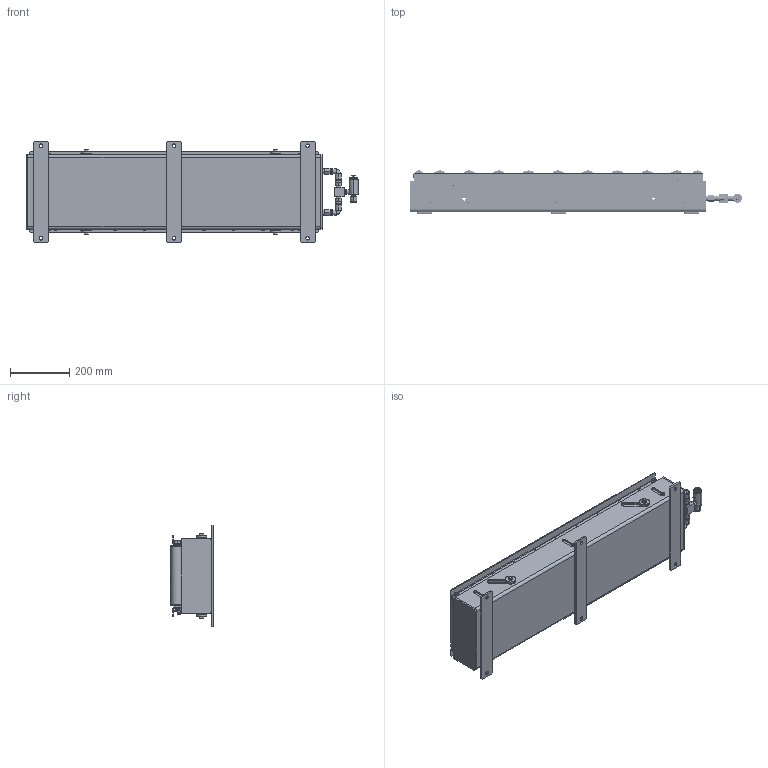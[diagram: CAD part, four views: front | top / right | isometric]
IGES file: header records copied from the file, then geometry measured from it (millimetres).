
Start section: 3D InterOp IGES (Version 21 0 2), Spatial Corp. Copyright (c) 1999-2007.
Global section: file name: ALR-PRL-571000D_L.igs; native system: Spatial Corp.; preprocessor: 3D InterOp GENERIC/IGES 3.0; author: Noname; organization: Noname; date: 20130411.110332; units: millimetre
Bounding box: 1120 x 145.05 x 342 mm (x, y, z)
Surface area: 3288090.2 mm2 (no closed solid volume)
Topology: 0 solids, 0 shells, 1771 faces, 10438 edges, 10386 vertices
Faces by surface type: bspline 1771
